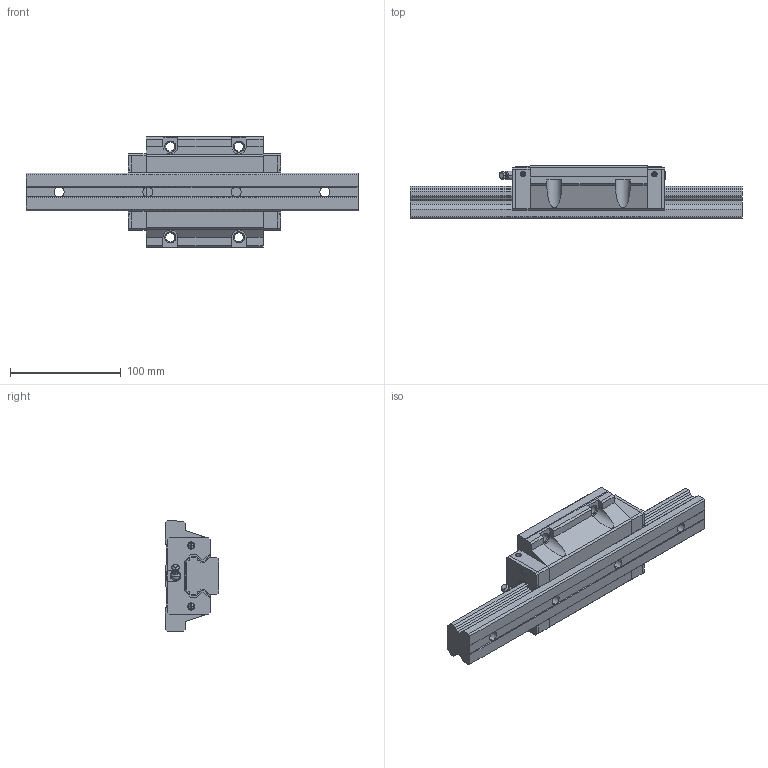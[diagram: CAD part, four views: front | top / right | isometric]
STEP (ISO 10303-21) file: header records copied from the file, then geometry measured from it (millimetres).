
FILE_DESCRIPTION((''),'2;1');
FILE_NAME('HW35HC_HR35R_ASM','2025-05-13T17:35:59',('ru0tay'),(''),'CREO PARAMETRIC BY PTC INC, 2020414','CREO PARAMETRIC BY PTC INC, 2020414','');
FILE_SCHEMA(('CONFIG_CONTROL_DESIGN'));
Length unit declared in the file: millimetre
Products named in the file (8): HR35R_2; HW35HC_SLIDER_2; HW35HC_C_2; HW35HC_P_2; H35_SCREW_2; H35_BOLT_2; H35-_G_2; HW35HC_HR35R_ASM
Assembly tree (12 placements, depth 2):
  HW35HC_HR35R_ASM
    HR35R_2
    HW35HC_SLIDER_2
    HW35HC_C_2  x2
    HW35HC_P_2  x2
    H35_SCREW_2  x4
    H35_BOLT_2
    H35-_G_2
Bounding box: 300 x 48 x 100 mm (x, y, z)
Volume: 606450.9 mm3; surface area: 110314.8 mm2
Topology: 12 solids, 12 shells, 562 faces, 1508 edges, 983 vertices
Faces by surface type: plane 362, cylinder 112, torus 40, cone 36, sphere 10, bspline 2
Entity records: 11900 total; most frequent: CARTESIAN_POINT 2368, DIRECTION 1974, ORIENTED_EDGE 1946, EDGE_CURVE 973, AXIS2_PLACEMENT_3D 662, VECTOR 650, LINE 650, VERTEX_POINT 634
